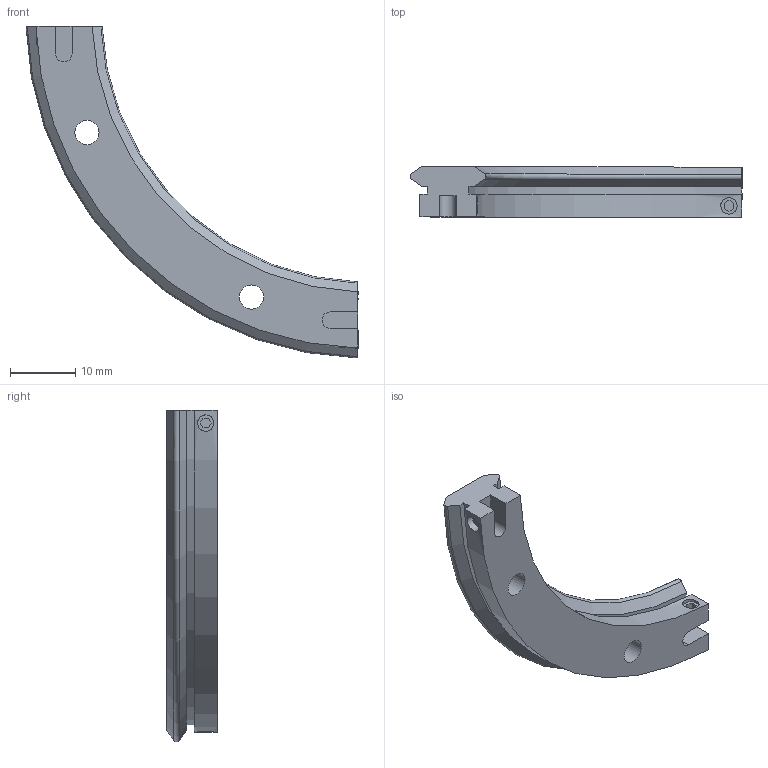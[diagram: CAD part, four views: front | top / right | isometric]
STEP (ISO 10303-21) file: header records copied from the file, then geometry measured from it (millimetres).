
FILE_DESCRIPTION( ( 'STEP AP203' ), '1' );
FILE_NAME( 'p:/temp/worker_28/temp/exporttempdir_1472_777_qHA0W/format_0/TR12 93 R90.stp', '2021-09-17T07:37:35', ( 'License CC BY-ND 4.0' ), ( 'CADENAS' ), ' ', 'PARTsolutions', ' ' );
FILE_SCHEMA( ( 'CONFIG_CONTROL_DESIGN' ) );
Length unit declared in the file: millimetre
Products named in the file (1): _TR12 93 R90
Bounding box: 50.79 x 7.7 x 50.79 mm (x, y, z)
Volume: 4397.8 mm3; surface area: 3196.4 mm2
Topology: 1 solids, 1 shells, 68 faces, 170 edges, 114 vertices
Faces by surface type: plane 48, cylinder 14, cone 4, torus 2
Full cylindrical faces by diameter (mm): 2.5 x4, 3.7 x2, 6 x2
Entity records: 2190 total; most frequent: CARTESIAN_POINT 547, ORIENTED_EDGE 320, DIRECTION 314, EDGE_CURVE 160, VERTEX_POINT 112, LINE 112, VECTOR 112, AXIS2_PLACEMENT_3D 101
